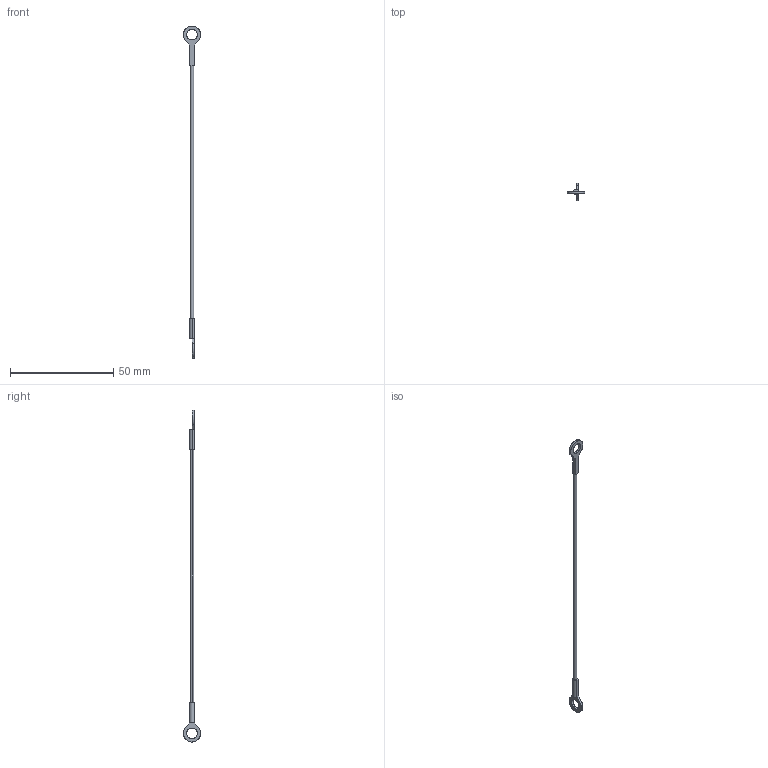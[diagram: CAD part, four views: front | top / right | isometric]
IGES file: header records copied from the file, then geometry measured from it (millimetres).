
Start section: SolidWorks IGES file using analytic representation for surfaces
Global section: file name: C:\Users\ianosborn\Desktop\LA1070_v2\LA1070_v2_20260323_IGES\Default.igs; native system: SolidWorks 2019; preprocessor: SolidWorks 2019; author: IanOsborn; date: 260323.144549; units: millimetre
Bounding box: 8.38 x 8.38 x 160.78 mm (x, y, z)
Surface area: 1038 mm2 (no closed solid volume)
Topology: 0 solids, 0 shells, 27 faces, 460 edges, 460 vertices
Faces by surface type: bspline 16, revolution 11
